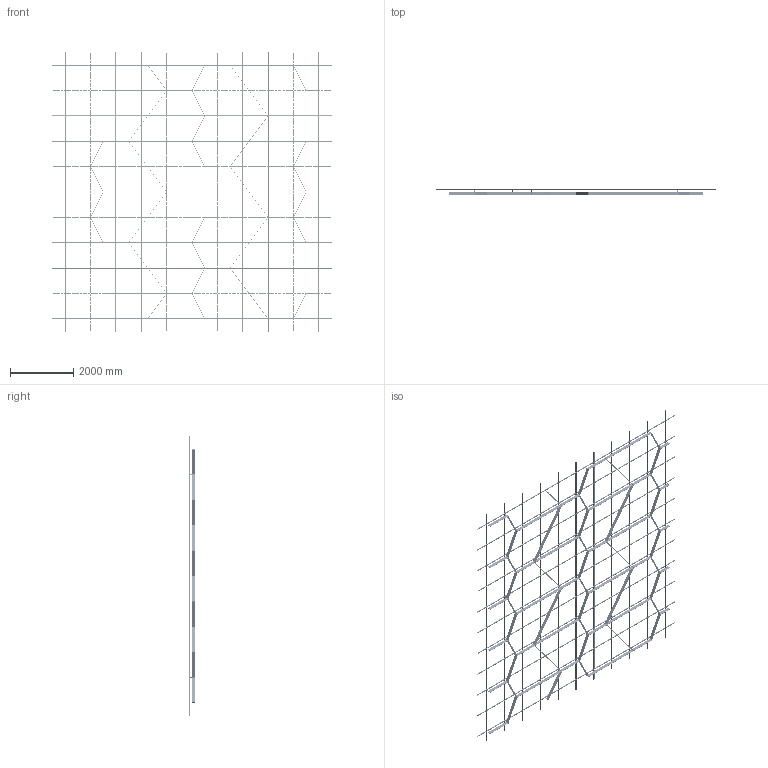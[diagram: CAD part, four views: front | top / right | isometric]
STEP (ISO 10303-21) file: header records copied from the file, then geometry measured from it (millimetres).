
FILE_DESCRIPTION (( 'STEP AP203' ), '1' );
FILE_NAME ('12 ìèäè ñ ïñ.step', '2025-11-26T11:36:11', ( '' ), ( '' ), 'SwSTEP 2.0', 'SolidWorks 2020', '' );
FILE_SCHEMA (( 'CONFIG_CONTROL_DESIGN' ));
Length unit declared in the file: millimetre
Products named in the file (5): Ñèñòåìà â çîíå 8000õ8000; SS.SEMA.2400 - Ñèìà-ïðîôèëü; SS.SEMA.2400 - Ñèìà-ïðîôèëü — îáðåçàí 1600; 12 ìèäè ñ ïñ; Var12
Assembly tree (90 placements, depth 3):
  12 ìèäè ñ ïñ
    Ñèñòåìà â çîíå 8000õ8000
      SS.SEMA.2400 - Ñèìà-ïðîôèëü  x66
      SS.SEMA.2400 - Ñèìà-ïðîôèëü — îáðåçàí 1600  x22
    Var12
Bounding box: 8800 x 205 x 8800 mm (x, y, z)
Volume: 83144341.5 mm3; surface area: 45495991.1 mm2
Topology: 390 solids, 390 shells, 17856 faces, 49820 edges, 32744 vertices
Faces by surface type: cylinder 12314, plane 5542
Entity records: 46075 total; most frequent: CARTESIAN_POINT 9718, DIRECTION 6890, ORIENTED_EDGE 6488, EDGE_CURVE 3244, AXIS2_PLACEMENT_3D 3196, VERTEX_POINT 2152, EDGE_LOOP 1862, ADVANCED_FACE 1700
